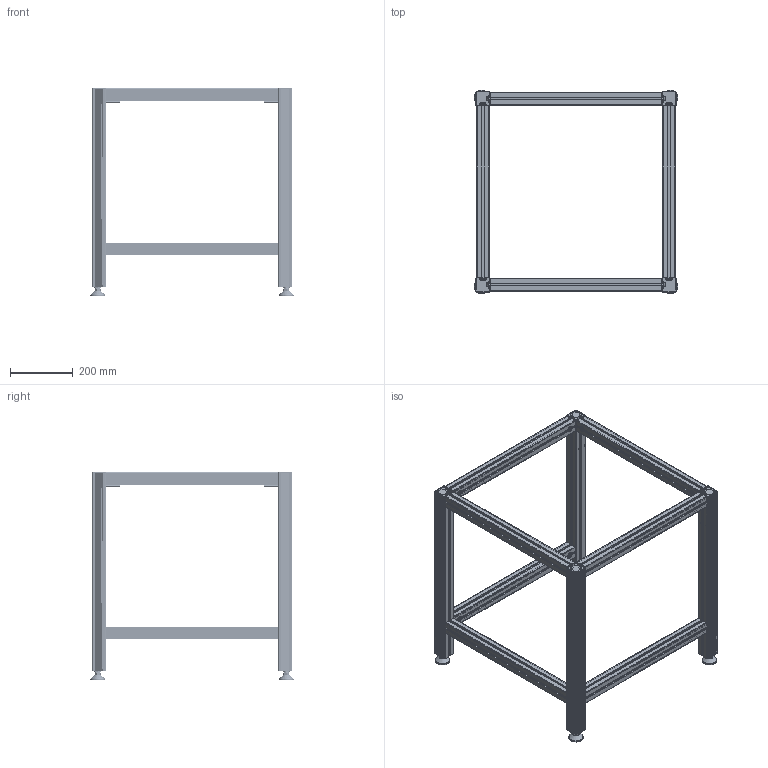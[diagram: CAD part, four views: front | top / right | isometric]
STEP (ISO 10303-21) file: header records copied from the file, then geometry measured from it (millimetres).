
FILE_DESCRIPTION(/* description */ ('Unknown'),/* implementation_level */ '2;1');
FILE_NAME(/* name */ '108.00400_eingefahren',/* time_stamp */ '2019-08-07T13:38:12+02:00',/* author */ ('Unknown'),/* organization */ ('Unknown'),/* preprocessor_version */ 'ST-DEVELOPER v16.7',/* originating_system */ 'DEX',/* authorisation */ $);
FILE_SCHEMA (('AUTOMOTIVE_DESIGN {1 0 10303 214 3 1 1}'));
Length unit declared in the file: millimetre
Products named in the file (32): 108.00400; 115.00100; 119.00190; 142.00210; 306.00414_oa_0; 142.00014; 119.00224; 122.00005; 142.00020; 113.00002_70mm; 124.00125; 128.00040; 106.00404_oa_1; 107.00404_oa_2; 115.00007_oa_3; 123.00104; 125.00051; 306.00414_oa_4; 106.00404_oa_5; 107.00404_oa_6; 115.00007_oa_7; 306.00414_oa_8; 106.00404_oa_9; 107.00404_oa_10; 115.00007_oa_11; 306.00414_oa_12; 106.00404_oa_13; 107.00404_oa_14; 115.00007_oa_15; 113.00006; 113.00052_ohne Mutter; Mutter M10
Assembly tree (84 placements, depth 5):
  108.00400
    115.00100  x7
      119.00190
      142.00210
    306.00414_oa_0
      142.00014  x2
      119.00224
      122.00005
      142.00020  x4
      113.00002_70mm
      124.00125
      128.00040
      106.00404_oa_1
        107.00404_oa_2
          115.00007_oa_3
        123.00104
        125.00051
    306.00414_oa_4
      142.00014  x2
      119.00224
      122.00005
      142.00020  x4
      113.00002_70mm
      124.00125
      128.00040
      106.00404_oa_5
        107.00404_oa_6
          115.00007_oa_7
        123.00104
        125.00051
    306.00414_oa_8
      142.00014  x2
      119.00224
      122.00005
      142.00020  x4
      113.00002_70mm
      124.00125
      128.00040
      106.00404_oa_9
        107.00404_oa_10
          115.00007_oa_11
        123.00104
        125.00051
    306.00414_oa_12
      142.00014  x2
      119.00224
      122.00005
      142.00020  x4
      113.00002_70mm
      124.00125
      128.00040
      106.00404_oa_13
        107.00404_oa_14
          115.00007_oa_15
        123.00104
        125.00051
    113.00006  x4
      113.00052_ohne Mutter
      Mutter M10
Bounding box: 650.82 x 650.82 x 663 mm (x, y, z)
Volume: 5275552.7 mm3; surface area: 3572912.4 mm2
Topology: 95 solids, 95 shells, 5997 faces, 16815 edges, 10830 vertices
Faces by surface type: plane 2644, cylinder 2607, cone 254, torus 190, bspline 176, sphere 126
Full cylindrical faces by diameter (mm): 2.2 x4, 2.5 x48, 3 x16, 4 x40, 5 x28, 6.647 x4, 7.8 x14, 8 x4, 8.376 x12, 9.5 x4, 10 x8, 11.3 x14, 11.5 x18, 12 x14, 12.2 x14, 13.5 x14, 13.7 x21, 15 x4, 16 x4, 17.3 x4, 18 x28, 18.1 x14, 19 x8, 20.8 x12, 21 x4, 24 x4, 25 x20, 29 x4, 30 x8, 35 x4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
Entity records: 46264 total; most frequent: CARTESIAN_POINT 9944, ORIENTED_EDGE 7370, DIRECTION 7342, EDGE_CURVE 3685, AXIS2_PLACEMENT_3D 2661, VERTEX_POINT 2440, LINE 2020, VECTOR 2020
